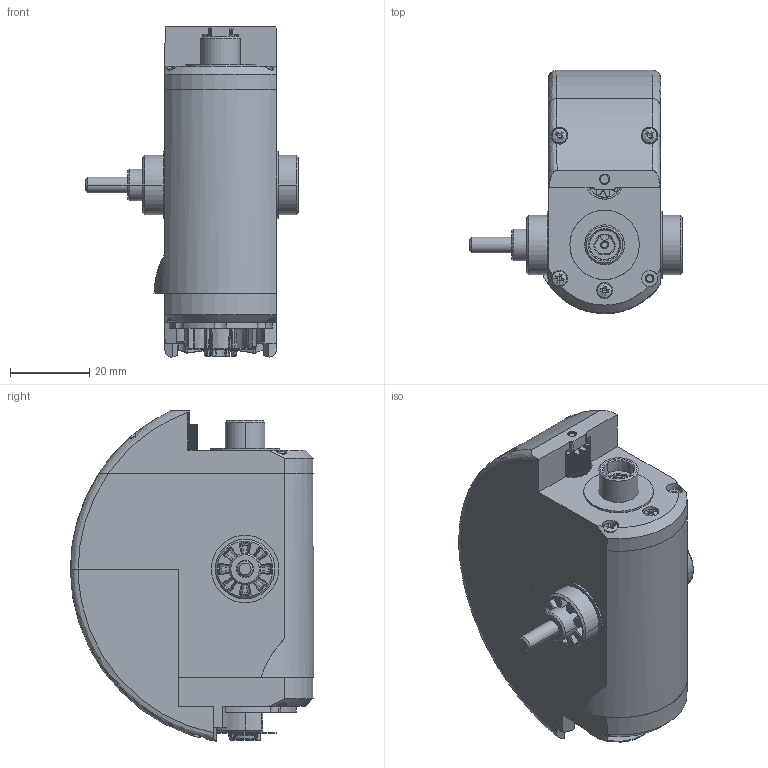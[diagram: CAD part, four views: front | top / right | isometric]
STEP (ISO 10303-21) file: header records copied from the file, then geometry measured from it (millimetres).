
FILE_DESCRIPTION (( 'STEP AP203' ), '1' );
FILE_NAME ('Left_Ankle_X_DOF_type I_leger_Default_sldprt.STEP', '2024-06-17T07:20:17', ( '' ), ( '' ), 'SwSTEP 2.0', 'SolidWorks 2023', '' );
FILE_SCHEMA (( 'CONFIG_CONTROL_DESIGN' ));
Products named in the file (1): Left_Ankle_X_DOF_type I_leger_Default_sldprt
Bounding box: 53.6 x 61.26 x 83.12 mm (x, y, z)
Volume: 38179.2 mm3; surface area: 39582.3 mm2
Topology: 17 solids, 17 shells, 1860 faces, 5060 edges, 3287 vertices
Faces by surface type: plane 1027, cone 390, cylinder 254, bspline 189
Entity records: 63819 total; most frequent: CARTESIAN_POINT 18098, ORIENTED_EDGE 10080, DIRECTION 8906, EDGE_CURVE 5040, VERTEX_POINT 3287, AXIS2_PLACEMENT_3D 3037, LINE 2832, VECTOR 2832
